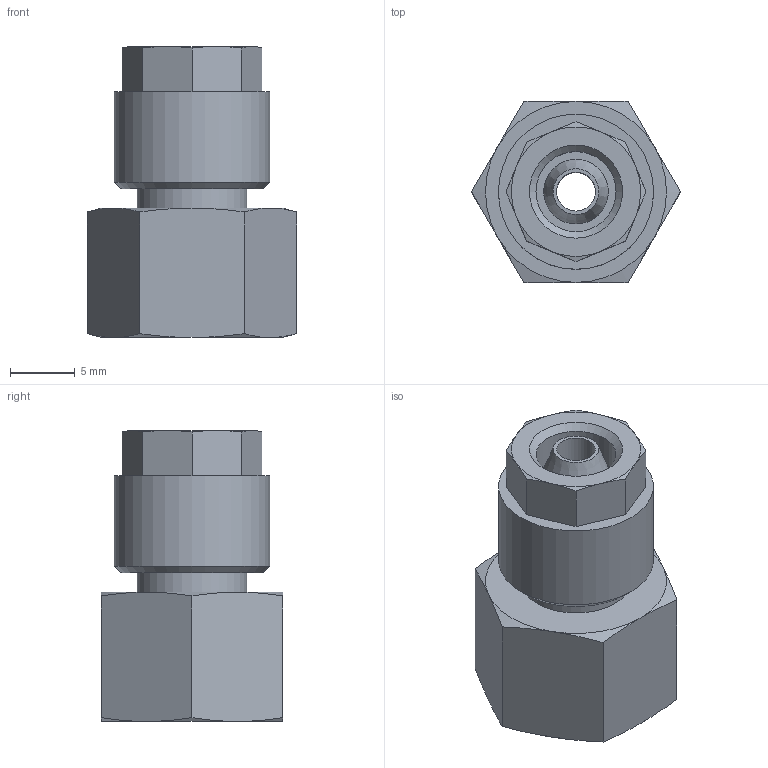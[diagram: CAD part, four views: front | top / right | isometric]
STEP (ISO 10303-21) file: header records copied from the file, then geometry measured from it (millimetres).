
FILE_DESCRIPTION(/* description */ (''),/* implementation_level */ '2;1');
FILE_NAME(/* name */ '10302_302_6-4_G18_09.03.17A',/* time_stamp */ '2017-03-09T14:07:24+01:00',/* author */ (''),/* organization */ (''),/* preprocessor_version */ 'ST-DEVELOPER v16.5',/* originating_system */ 'HiCAD 2016 2102.1 Build 498',/* authorisation */ '');
FILE_SCHEMA (('AUTOMOTIVE_DESIGN { 1 0 10303 214 1 1 1 1 }'));
Length unit declared in the file: millimetre
Products named in the file (3): Root; R10302; 17005
Assembly tree (2 placements, depth 2):
  Root
    R10302
    17005
Bounding box: 16.17 x 14 x 22.5 mm (x, y, z)
Volume: 2254.5 mm3; surface area: 2241.1 mm2
Topology: 2 solids, 2 shells, 60 faces, 131 edges, 79 vertices
Faces by surface type: cone 29, plane 22, cylinder 8, torus 1
Full cylindrical faces by diameter (mm): 3 x1, 4.5 x1, 6.2 x1, 8.5 x1, 8.566 x1, 8.773 x1, 10 x1, 12 x1
Entity records: 2633 total; most frequent: DIRECTION 318, CARTESIAN_POINT 242, PRESENTATION_STYLE_ASSIGNMENT 214, COLOUR_RGB 213, DRAUGHTING_PRE_DEFINED_CURVE_FONT 212, CURVE_STYLE 212, OVER_RIDING_STYLED_ITEM 212, ORIENTED_EDGE 212
